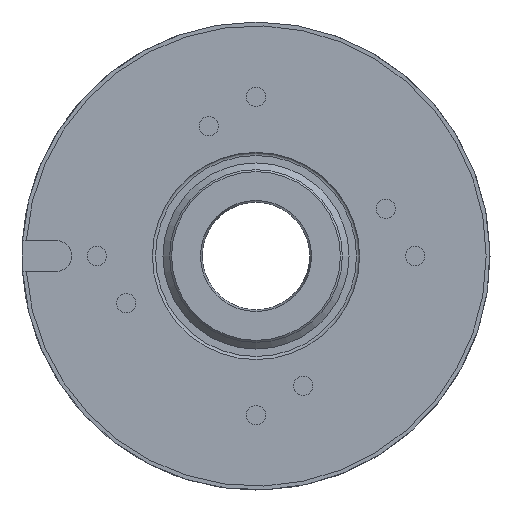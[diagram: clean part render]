
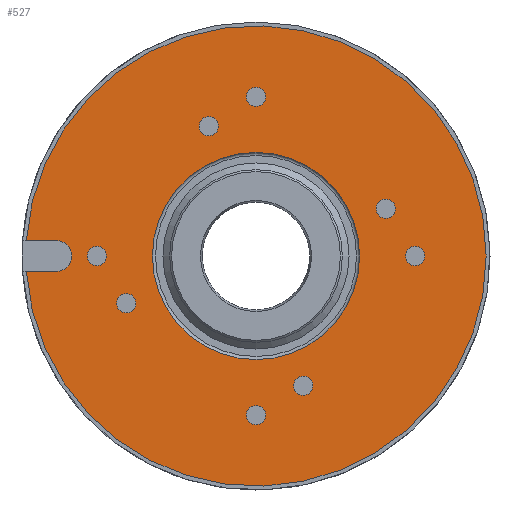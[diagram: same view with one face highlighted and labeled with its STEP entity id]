
A CAD part, left-side view. The second image highlights one B-rep face of the part: STEP entity #527.
In plain terms, the highlighted planar face has unit normal (-1, 0, 0).
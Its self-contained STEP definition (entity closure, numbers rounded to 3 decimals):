
#16 = FACE_BOUND ( 'NONE', #140, .T. ) ;
#19 = CARTESIAN_POINT ( 'NONE',  ( 0., 0., 27. ) ) ;
#30 = CARTESIAN_POINT ( 'NONE',  ( 0., 52., -4. ) ) ;
#31 = DIRECTION ( 'NONE',  ( -1., 0., 0. ) ) ;
#36 = CIRCLE ( 'NONE', #792, 27. ) ;
#49 = DIRECTION ( 'NONE',  ( -1., 0., 0. ) ) ;
#50 = ORIENTED_EDGE ( 'NONE', *, *, #1789, .F. ) ;
#67 = EDGE_LOOP ( 'NONE', ( #336 ) ) ;
#68 = EDGE_CURVE ( 'NONE', #1303, #1303, #283, .T. ) ;
#75 = CARTESIAN_POINT ( 'NONE',  ( 0., 9.813, 33.829 ) ) ;
#77 = VERTEX_POINT ( 'NONE', #1734 ) ;
#102 = VERTEX_POINT ( 'NONE', #19 ) ;
#106 = CARTESIAN_POINT ( 'NONE',  ( 0., 41.5, 0. ) ) ;
#116 = DIRECTION ( 'NONE',  ( -1., 0., 0. ) ) ;
#122 = PLANE ( 'NONE',  #340 ) ;
#124 = AXIS2_PLACEMENT_3D ( 'NONE', #1255, #31, #189 ) ;
#128 = CIRCLE ( 'NONE', #1601, 2.5 ) ;
#130 = DIRECTION ( 'NONE',  ( 0., 0., 1. ) ) ;
#137 = ORIENTED_EDGE ( 'NONE', *, *, #360, .F. ) ;
#140 = EDGE_LOOP ( 'NONE', ( #1018 ) ) ;
#168 = EDGE_LOOP ( 'NONE', ( #137 ) ) ;
#171 = CARTESIAN_POINT ( 'NONE',  ( 0., 2.5, -41.5 ) ) ;
#185 = CARTESIAN_POINT ( 'NONE',  ( 0., 41.5, 2.5 ) ) ;
#189 = DIRECTION ( 'NONE',  ( 0., 1., 0. ) ) ;
#197 = VERTEX_POINT ( 'NONE', #30 ) ;
#215 = AXIS2_PLACEMENT_3D ( 'NONE', #1922, #1181, #1785 ) ;
#219 = CARTESIAN_POINT ( 'NONE',  ( 0., -41.5, 0. ) ) ;
#245 = DIRECTION ( 'NONE',  ( -1., 0., 0. ) ) ;
#256 = DIRECTION ( 'NONE',  ( -1., 0., 0. ) ) ;
#257 = DIRECTION ( 'NONE',  ( 0., 1., 0. ) ) ;
#267 = VERTEX_POINT ( 'NONE', #473 ) ;
#283 = CIRCLE ( 'NONE', #371, 2.5 ) ;
#336 = ORIENTED_EDGE ( 'NONE', *, *, #1803, .F. ) ;
#340 = AXIS2_PLACEMENT_3D ( 'NONE', #1547, #598, #1085 ) ;
#354 = DIRECTION ( 'NONE',  ( 0., 0., -1. ) ) ;
#360 = EDGE_CURVE ( 'NONE', #77, #77, #1677, .T. ) ;
#371 = AXIS2_PLACEMENT_3D ( 'NONE', #1394, #920, #448 ) ;
#374 = AXIS2_PLACEMENT_3D ( 'NONE', #1966, #245, #1346 ) ;
#386 = LINE ( 'NONE', #1004, #1330 ) ;
#391 = CIRCLE ( 'NONE', #215, 2.5 ) ;
#421 = FACE_BOUND ( 'NONE', #1388, .T. ) ;
#448 = DIRECTION ( 'NONE',  ( 0., -1., 0. ) ) ;
#473 = CARTESIAN_POINT ( 'NONE',  ( 0., -2.5, 41.5 ) ) ;
#521 = VERTEX_POINT ( 'NONE', #1384 ) ;
#527 = ADVANCED_FACE ( 'NONE', ( #1840, #421, #1436, #1014, #1165, #860, #992, #1654, #1339, #16 ), #122, .T. ) ;
#559 = DIRECTION ( 'NONE',  ( -1., 0., 0. ) ) ;
#598 = DIRECTION ( 'NONE',  ( -1., 0., 0. ) ) ;
#606 = CIRCLE ( 'NONE', #374, 2.5 ) ;
#608 = CARTESIAN_POINT ( 'NONE',  ( 0., 0., 0. ) ) ;
#652 = VERTEX_POINT ( 'NONE', #185 ) ;
#666 = ORIENTED_EDGE ( 'NONE', *, *, #1448, .T. ) ;
#673 = VERTEX_POINT ( 'NONE', #1575 ) ;
#724 = CARTESIAN_POINT ( 'NONE',  ( 0., 0., 41.5 ) ) ;
#792 = AXIS2_PLACEMENT_3D ( 'NONE', #608, #1688, #130 ) ;
#844 = AXIS2_PLACEMENT_3D ( 'NONE', #1337, #256, #1956 ) ;
#860 = FACE_BOUND ( 'NONE', #995, .T. ) ;
#889 = DIRECTION ( 'NONE',  ( 0., -1., 0. ) ) ;
#920 = DIRECTION ( 'NONE',  ( -1., 0., 0. ) ) ;
#946 = VERTEX_POINT ( 'NONE', #1808 ) ;
#956 = EDGE_CURVE ( 'NONE', #652, #652, #1038, .T. ) ;
#992 = FACE_BOUND ( 'NONE', #1148, .T. ) ;
#995 = EDGE_LOOP ( 'NONE', ( #50 ) ) ;
#999 = ORIENTED_EDGE ( 'NONE', *, *, #1855, .F. ) ;
#1004 = CARTESIAN_POINT ( 'NONE',  ( 0., 52., -4. ) ) ;
#1014 = FACE_BOUND ( 'NONE', #168, .T. ) ;
#1018 = ORIENTED_EDGE ( 'NONE', *, *, #1515, .F. ) ;
#1038 = CIRCLE ( 'NONE', #1847, 2.5 ) ;
#1053 = AXIS2_PLACEMENT_3D ( 'NONE', #1909, #49, #1144 ) ;
#1085 = DIRECTION ( 'NONE',  ( 0., 0., 1. ) ) ;
#1100 = ORIENTED_EDGE ( 'NONE', *, *, #956, .F. ) ;
#1144 = DIRECTION ( 'NONE',  ( 0., 0., 1. ) ) ;
#1148 = EDGE_LOOP ( 'NONE', ( #1870 ) ) ;
#1165 = FACE_BOUND ( 'NONE', #67, .T. ) ;
#1172 = ORIENTED_EDGE ( 'NONE', *, *, #1301, .F. ) ;
#1181 = DIRECTION ( 'NONE',  ( -1., 0., 0. ) ) ;
#1248 = EDGE_LOOP ( 'NONE', ( #1277 ) ) ;
#1255 = CARTESIAN_POINT ( 'NONE',  ( 0., 0., -41.5 ) ) ;
#1257 = VERTEX_POINT ( 'NONE', #1865 ) ;
#1261 = CARTESIAN_POINT ( 'NONE',  ( 0., -9.813, -33.829 ) ) ;
#1267 = EDGE_CURVE ( 'NONE', #197, #521, #1455, .T. ) ;
#1277 = ORIENTED_EDGE ( 'NONE', *, *, #68, .F. ) ;
#1301 = EDGE_CURVE ( 'NONE', #1257, #1257, #391, .T. ) ;
#1303 = VERTEX_POINT ( 'NONE', #75 ) ;
#1320 = AXIS2_PLACEMENT_3D ( 'NONE', #724, #116, #889 ) ;
#1330 = VECTOR ( 'NONE', #1463, 1000. ) ;
#1337 = CARTESIAN_POINT ( 'NONE',  ( 0., 33.829, -12.313 ) ) ;
#1339 = FACE_OUTER_BOUND ( 'NONE', #1511, .T. ) ;
#1345 = ORIENTED_EDGE ( 'NONE', *, *, #1267, .F. ) ;
#1346 = DIRECTION ( 'NONE',  ( 0., 1., 0. ) ) ;
#1364 = EDGE_LOOP ( 'NONE', ( #1100 ) ) ;
#1374 = EDGE_CURVE ( 'NONE', #1671, #1671, #606, .T. ) ;
#1384 = CARTESIAN_POINT ( 'NONE',  ( 0., 52., 4. ) ) ;
#1387 = ORIENTED_EDGE ( 'NONE', *, *, #1374, .F. ) ;
#1388 = EDGE_LOOP ( 'NONE', ( #1172 ) ) ;
#1394 = CARTESIAN_POINT ( 'NONE',  ( 0., 12.313, 33.829 ) ) ;
#1436 = FACE_BOUND ( 'NONE', #1913, .T. ) ;
#1448 = EDGE_CURVE ( 'NONE', #1659, #946, #1519, .T. ) ;
#1455 = CIRCLE ( 'NONE', #1053, 4. ) ;
#1463 = DIRECTION ( 'NONE',  ( 0., -1., 0. ) ) ;
#1471 = DIRECTION ( 'NONE',  ( -1., 0., 0. ) ) ;
#1511 = EDGE_LOOP ( 'NONE', ( #1532, #666, #999, #1345 ) ) ;
#1514 = CARTESIAN_POINT ( 'NONE',  ( 0., 0., 0. ) ) ;
#1515 = EDGE_CURVE ( 'NONE', #102, #102, #36, .T. ) ;
#1518 = CIRCLE ( 'NONE', #1320, 2.5 ) ;
#1519 = CIRCLE ( 'NONE', #1549, 60. ) ;
#1532 = ORIENTED_EDGE ( 'NONE', *, *, #1967, .F. ) ;
#1547 = CARTESIAN_POINT ( 'NONE',  ( 0., -27., 0. ) ) ;
#1549 = AXIS2_PLACEMENT_3D ( 'NONE', #1514, #559, #1977 ) ;
#1575 = CARTESIAN_POINT ( 'NONE',  ( 0., -41.5, -2.5 ) ) ;
#1578 = CARTESIAN_POINT ( 'NONE',  ( 0., 59.867, -4. ) ) ;
#1601 = AXIS2_PLACEMENT_3D ( 'NONE', #219, #1471, #354 ) ;
#1654 = FACE_BOUND ( 'NONE', #1364, .T. ) ;
#1659 = VERTEX_POINT ( 'NONE', #1578 ) ;
#1671 = VERTEX_POINT ( 'NONE', #1261 ) ;
#1677 = CIRCLE ( 'NONE', #844, 2.5 ) ;
#1688 = DIRECTION ( 'NONE',  ( -1., 0., 0. ) ) ;
#1689 = EDGE_CURVE ( 'NONE', #1782, #1782, #1884, .T. ) ;
#1696 = DIRECTION ( 'NONE',  ( 0., 0., 1. ) ) ;
#1703 = DIRECTION ( 'NONE',  ( -1., 0., 0. ) ) ;
#1734 = CARTESIAN_POINT ( 'NONE',  ( 0., 33.829, -9.813 ) ) ;
#1782 = VERTEX_POINT ( 'NONE', #171 ) ;
#1785 = DIRECTION ( 'NONE',  ( 0., 0., -1. ) ) ;
#1789 = EDGE_CURVE ( 'NONE', #673, #673, #128, .T. ) ;
#1803 = EDGE_CURVE ( 'NONE', #267, #267, #1518, .T. ) ;
#1808 = CARTESIAN_POINT ( 'NONE',  ( 0., 59.867, 4. ) ) ;
#1833 = LINE ( 'NONE', #1975, #1861 ) ;
#1840 = FACE_BOUND ( 'NONE', #1248, .T. ) ;
#1847 = AXIS2_PLACEMENT_3D ( 'NONE', #106, #1703, #1696 ) ;
#1855 = EDGE_CURVE ( 'NONE', #521, #946, #1833, .T. ) ;
#1861 = VECTOR ( 'NONE', #257, 1000. ) ;
#1865 = CARTESIAN_POINT ( 'NONE',  ( 0., -33.829, 9.813 ) ) ;
#1870 = ORIENTED_EDGE ( 'NONE', *, *, #1689, .F. ) ;
#1884 = CIRCLE ( 'NONE', #124, 2.5 ) ;
#1909 = CARTESIAN_POINT ( 'NONE',  ( 0., 52., 0. ) ) ;
#1913 = EDGE_LOOP ( 'NONE', ( #1387 ) ) ;
#1922 = CARTESIAN_POINT ( 'NONE',  ( 0., -33.829, 12.313 ) ) ;
#1956 = DIRECTION ( 'NONE',  ( 0., 0., 1. ) ) ;
#1966 = CARTESIAN_POINT ( 'NONE',  ( 0., -12.313, -33.829 ) ) ;
#1967 = EDGE_CURVE ( 'NONE', #1659, #197, #386, .T. ) ;
#1975 = CARTESIAN_POINT ( 'NONE',  ( 0., 52., 4. ) ) ;
#1977 = DIRECTION ( 'NONE',  ( 0., 0., 1. ) ) ;
